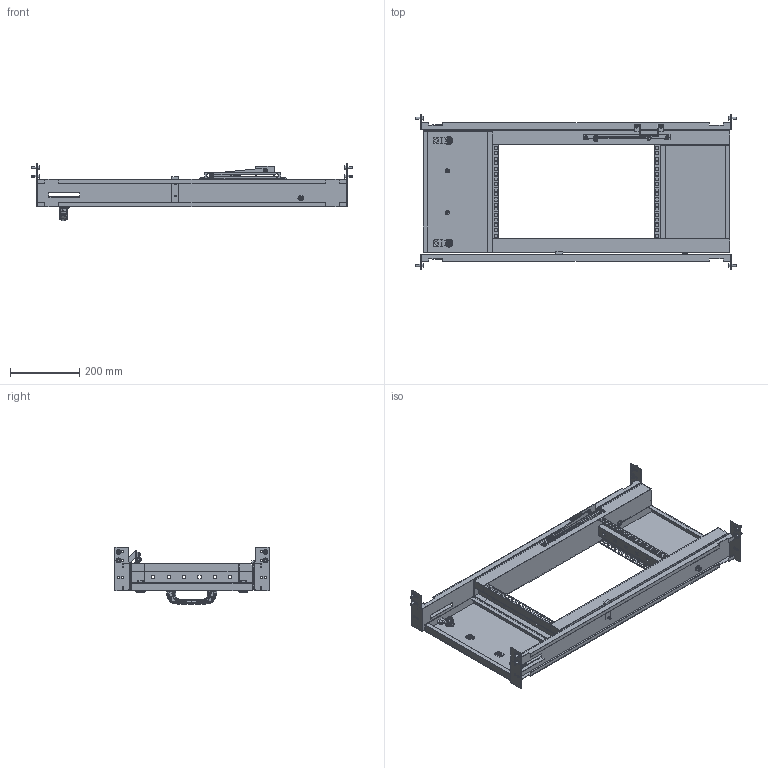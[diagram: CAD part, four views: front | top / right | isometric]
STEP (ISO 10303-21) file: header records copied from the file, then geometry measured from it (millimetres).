
FILE_DESCRIPTION(('Open CASCADE Model'),'2;1');
FILE_NAME('Open CASCADE Shape Model','2025-03-24T10:15:11',('Author'),( 'Open CASCADE'),'Open CASCADE STEP processor 7.8','Open CASCADE 7.8' ,'Unknown');
FILE_SCHEMA(('AUTOMOTIVE_DESIGN { 1 0 10303 214 1 1 1 1 }'));
Length unit declared in the file: millimetre
Products named in the file (35): Compound1; Compound2; Solid1; Solid2; Compound3; Solid3; Solid4; Solid5; Solid6; Solid7; Solid8; Solid9; Solid10; Solid11; Solid12; Solid13; Solid14; Solid15; Solid16; Solid17; Compound4; Solid18; Solid19; Solid20; Solid21; Compound5; Solid22; Solid23; Solid24; Solid25; Solid26; Solid27; Solid28; Solid29; Solid30
Assembly tree (53 placements, depth 3):
  Compound1
    Compound2
      Solid1
      Solid2
    Compound3
      Solid3
      Solid2
    Solid4  x2
    Solid5  x2
    Solid6
    Solid7
    Solid8
    Solid9
    Solid10
    Solid11  x2
    Solid12  x4
    Solid13  x8
    Solid14
    Solid15
    Solid16  x2
    Solid17  x2
    Compound4
      Solid18
      Solid19
    Solid20
    Solid21
    Compound5
      Solid22
      Solid23
      Solid24  x2
      Solid25
      Solid26  x2
      Solid27
      Solid28  x2
      Solid29
      Solid30
Bounding box: 926 x 445.5 x 165 mm (x, y, z)
Volume: 1519221.5 mm3; surface area: 1807206.1 mm2
Topology: 51 solids, 69 shells, 4037 faces, 10878 edges, 6937 vertices
Faces by surface type: plane 1948, cylinder 726, bspline 670, cone 439, torus 176, sphere 78
Entity records: 119676 total; most frequent: CARTESIAN_POINT 47475, ORIENTED_EDGE 15984, DIRECTION 12978, EDGE_CURVE 8162, VERTEX_POINT 5231, LINE 4644, VECTOR 4644, AXIS2_PLACEMENT_3D 4167
